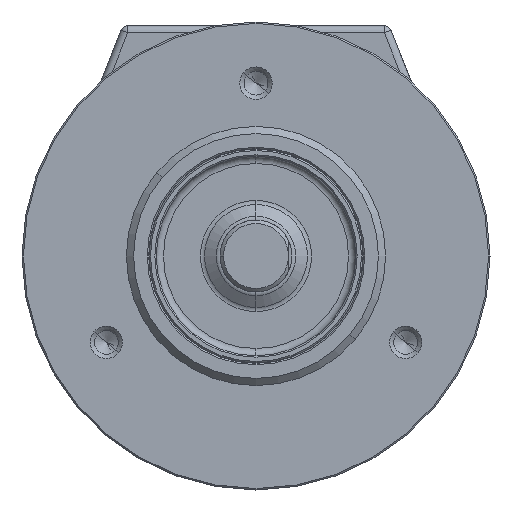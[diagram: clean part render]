
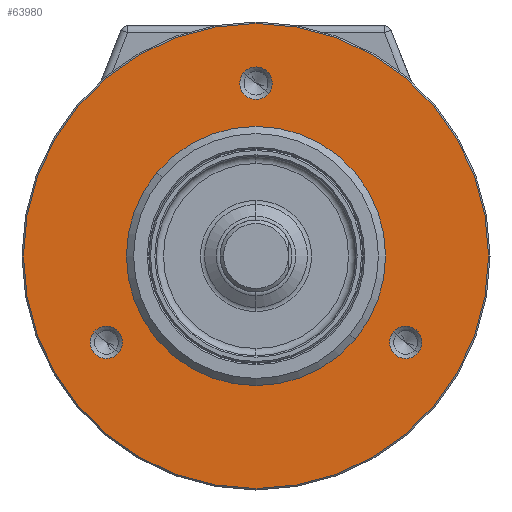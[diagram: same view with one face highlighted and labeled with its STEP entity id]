
A CAD part, front view. The second image highlights one B-rep face of the part: STEP entity #63980.
In plain terms, the highlighted planar face has unit normal (0, -1, 0).
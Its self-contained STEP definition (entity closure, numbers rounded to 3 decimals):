
#308 = AXIS2_PLACEMENT_3D ( 'NONE', #105116, #103044, #80616 ) ;
#1067 = DIRECTION ( 'NONE',  ( -0.766, 0., 0.643 ) ) ;
#1327 = CARTESIAN_POINT ( 'NONE',  ( -19.061, -11.5, -13.446 ) ) ;
#1933 = CARTESIAN_POINT ( 'NONE',  ( 20.785, -11.5, -12. ) ) ;
#3025 = DIRECTION ( 'NONE',  ( 0., -1., 0. ) ) ;
#3587 = ORIENTED_EDGE ( 'NONE', *, *, #125233, .F. ) ;
#6064 = VERTEX_POINT ( 'NONE', #107093 ) ;
#7015 = CIRCLE ( 'NONE', #308, 32.3 ) ;
#8135 = ORIENTED_EDGE ( 'NONE', *, *, #56845, .F. ) ;
#12658 = EDGE_CURVE ( 'NONE', #51372, #92721, #73342, .T. ) ;
#13033 = VERTEX_POINT ( 'NONE', #102178 ) ;
#14928 = AXIS2_PLACEMENT_3D ( 'NONE', #97106, #117469, #95042 ) ;
#17233 = DIRECTION ( 'NONE',  ( 0., -1., 0. ) ) ;
#19412 = FACE_OUTER_BOUND ( 'NONE', #110620, .T. ) ;
#19845 = AXIS2_PLACEMENT_3D ( 'NONE', #51618, #42571, #30007 ) ;
#20905 = DIRECTION ( 'NONE',  ( 0., -1., 0. ) ) ;
#23697 = EDGE_CURVE ( 'NONE', #71426, #6064, #68153, .T. ) ;
#23960 = VERTEX_POINT ( 'NONE', #1327 ) ;
#24432 = EDGE_LOOP ( 'NONE', ( #8135, #125519 ) ) ;
#24677 = CARTESIAN_POINT ( 'NONE',  ( 0., -11.5, 0. ) ) ;
#25888 = AXIS2_PLACEMENT_3D ( 'NONE', #29723, #42276, #126843 ) ;
#27505 = EDGE_CURVE ( 'NONE', #6064, #71426, #126106, .T. ) ;
#27587 = CARTESIAN_POINT ( 'NONE',  ( 1.724, -11.5, 22.554 ) ) ;
#29723 = CARTESIAN_POINT ( 'NONE',  ( 20.785, -11.5, -12. ) ) ;
#30007 = DIRECTION ( 'NONE',  ( 0.766, 0., -0.643 ) ) ;
#32767 = AXIS2_PLACEMENT_3D ( 'NONE', #24677, #3025, #98699 ) ;
#36872 = CARTESIAN_POINT ( 'NONE',  ( -13.789, -11.5, 11.57 ) ) ;
#38446 = AXIS2_PLACEMENT_3D ( 'NONE', #101205, #118437, #1067 ) ;
#38653 = CARTESIAN_POINT ( 'NONE',  ( 22.508, -11.5, -13.446 ) ) ;
#42276 = DIRECTION ( 'NONE',  ( 0., -1., 0. ) ) ;
#42571 = DIRECTION ( 'NONE',  ( 0., -1., 0. ) ) ;
#46441 = CIRCLE ( 'NONE', #32767, 18. ) ;
#48496 = CARTESIAN_POINT ( 'NONE',  ( 0., -11.5, 0. ) ) ;
#50851 = CARTESIAN_POINT ( 'NONE',  ( 20.891, -11.5, 24.896 ) ) ;
#51372 = VERTEX_POINT ( 'NONE', #128500 ) ;
#51618 = CARTESIAN_POINT ( 'NONE',  ( 0., -11.5, 0. ) ) ;
#55049 = CIRCLE ( 'NONE', #14928, 2.25 ) ;
#56845 = EDGE_CURVE ( 'NONE', #100654, #85648, #46441, .T. ) ;
#58896 = EDGE_LOOP ( 'NONE', ( #3587, #71758 ) ) ;
#60450 = CIRCLE ( 'NONE', #80440, 2.25 ) ;
#60602 = FACE_BOUND ( 'NONE', #58896, .T. ) ;
#62677 = FACE_BOUND ( 'NONE', #24432, .T. ) ;
#62765 = DIRECTION ( 'NONE',  ( -0.766, 0., 0.643 ) ) ;
#62919 = CIRCLE ( 'NONE', #38446, 2.25 ) ;
#63980 = ADVANCED_FACE ( 'NONE', ( #19412, #114456, #60602, #137499, #62677 ), #71072, .F. ) ;
#66110 = CARTESIAN_POINT ( 'NONE',  ( -24.743, -11.5, 20.762 ) ) ;
#68153 = CIRCLE ( 'NONE', #25888, 2.25 ) ;
#69067 = EDGE_CURVE ( 'NONE', #85648, #100654, #99992, .T. ) ;
#71072 = PLANE ( 'NONE',  #82296 ) ;
#71132 = EDGE_CURVE ( 'NONE', #92721, #51372, #7015, .T. ) ;
#71426 = VERTEX_POINT ( 'NONE', #38653 ) ;
#71670 = CARTESIAN_POINT ( 'NONE',  ( 0., -11.5, 24. ) ) ;
#71758 = ORIENTED_EDGE ( 'NONE', *, *, #124234, .F. ) ;
#73342 = CIRCLE ( 'NONE', #19845, 32.3 ) ;
#74045 = ORIENTED_EDGE ( 'NONE', *, *, #82368, .F. ) ;
#80440 = AXIS2_PLACEMENT_3D ( 'NONE', #93456, #134840, #91357 ) ;
#80521 = CARTESIAN_POINT ( 'NONE',  ( 13.789, -11.5, -11.57 ) ) ;
#80616 = DIRECTION ( 'NONE',  ( 0.766, 0., -0.643 ) ) ;
#81220 = CIRCLE ( 'NONE', #108031, 2.25 ) ;
#82296 = AXIS2_PLACEMENT_3D ( 'NONE', #50851, #126374, #116524 ) ;
#82368 = EDGE_CURVE ( 'NONE', #23960, #96351, #60450, .T. ) ;
#85648 = VERTEX_POINT ( 'NONE', #80521 ) ;
#90494 = DIRECTION ( 'NONE',  ( -0.766, 0., 0.643 ) ) ;
#91357 = DIRECTION ( 'NONE',  ( -0.766, 0., 0.643 ) ) ;
#92721 = VERTEX_POINT ( 'NONE', #66110 ) ;
#93456 = CARTESIAN_POINT ( 'NONE',  ( -20.785, -11.5, -12. ) ) ;
#95042 = DIRECTION ( 'NONE',  ( -0.766, 0., 0.643 ) ) ;
#96020 = EDGE_LOOP ( 'NONE', ( #134052, #125567 ) ) ;
#96351 = VERTEX_POINT ( 'NONE', #121334 ) ;
#97106 = CARTESIAN_POINT ( 'NONE',  ( -20.785, -11.5, -12. ) ) ;
#98038 = ORIENTED_EDGE ( 'NONE', *, *, #71132, .T. ) ;
#98699 = DIRECTION ( 'NONE',  ( -0.766, 0., 0.643 ) ) ;
#99992 = CIRCLE ( 'NONE', #137671, 18. ) ;
#100654 = VERTEX_POINT ( 'NONE', #36872 ) ;
#101205 = CARTESIAN_POINT ( 'NONE',  ( 0., -11.5, 24. ) ) ;
#102178 = CARTESIAN_POINT ( 'NONE',  ( -1.724, -11.5, 25.446 ) ) ;
#103044 = DIRECTION ( 'NONE',  ( 0., -1., 0. ) ) ;
#103683 = DIRECTION ( 'NONE',  ( -0.766, 0., 0.643 ) ) ;
#105112 = ORIENTED_EDGE ( 'NONE', *, *, #127997, .F. ) ;
#105116 = CARTESIAN_POINT ( 'NONE',  ( 0., -11.5, 0. ) ) ;
#105388 = ORIENTED_EDGE ( 'NONE', *, *, #12658, .T. ) ;
#107093 = CARTESIAN_POINT ( 'NONE',  ( 19.061, -11.5, -10.554 ) ) ;
#108031 = AXIS2_PLACEMENT_3D ( 'NONE', #71670, #17233, #90494 ) ;
#110620 = EDGE_LOOP ( 'NONE', ( #105388, #98038 ) ) ;
#112405 = VERTEX_POINT ( 'NONE', #27587 ) ;
#114456 = FACE_BOUND ( 'NONE', #127924, .T. ) ;
#116524 = DIRECTION ( 'NONE',  ( 0.766, 0., -0.643 ) ) ;
#117469 = DIRECTION ( 'NONE',  ( 0., -1., 0. ) ) ;
#118437 = DIRECTION ( 'NONE',  ( 0., -1., 0. ) ) ;
#119356 = AXIS2_PLACEMENT_3D ( 'NONE', #1933, #20905, #62765 ) ;
#121334 = CARTESIAN_POINT ( 'NONE',  ( -22.508, -11.5, -10.554 ) ) ;
#124234 = EDGE_CURVE ( 'NONE', #112405, #13033, #62919, .T. ) ;
#125233 = EDGE_CURVE ( 'NONE', #13033, #112405, #81220, .T. ) ;
#125519 = ORIENTED_EDGE ( 'NONE', *, *, #69067, .F. ) ;
#125567 = ORIENTED_EDGE ( 'NONE', *, *, #23697, .F. ) ;
#126106 = CIRCLE ( 'NONE', #119356, 2.25 ) ;
#126374 = DIRECTION ( 'NONE',  ( 0., 1., 0. ) ) ;
#126843 = DIRECTION ( 'NONE',  ( -0.766, 0., 0.643 ) ) ;
#127924 = EDGE_LOOP ( 'NONE', ( #105112, #74045 ) ) ;
#127997 = EDGE_CURVE ( 'NONE', #96351, #23960, #55049, .T. ) ;
#128500 = CARTESIAN_POINT ( 'NONE',  ( 24.743, -11.5, -20.762 ) ) ;
#134052 = ORIENTED_EDGE ( 'NONE', *, *, #27505, .F. ) ;
#134840 = DIRECTION ( 'NONE',  ( 0., -1., 0. ) ) ;
#135864 = DIRECTION ( 'NONE',  ( 0., -1., 0. ) ) ;
#137499 = FACE_BOUND ( 'NONE', #96020, .T. ) ;
#137671 = AXIS2_PLACEMENT_3D ( 'NONE', #48496, #135864, #103683 ) ;
